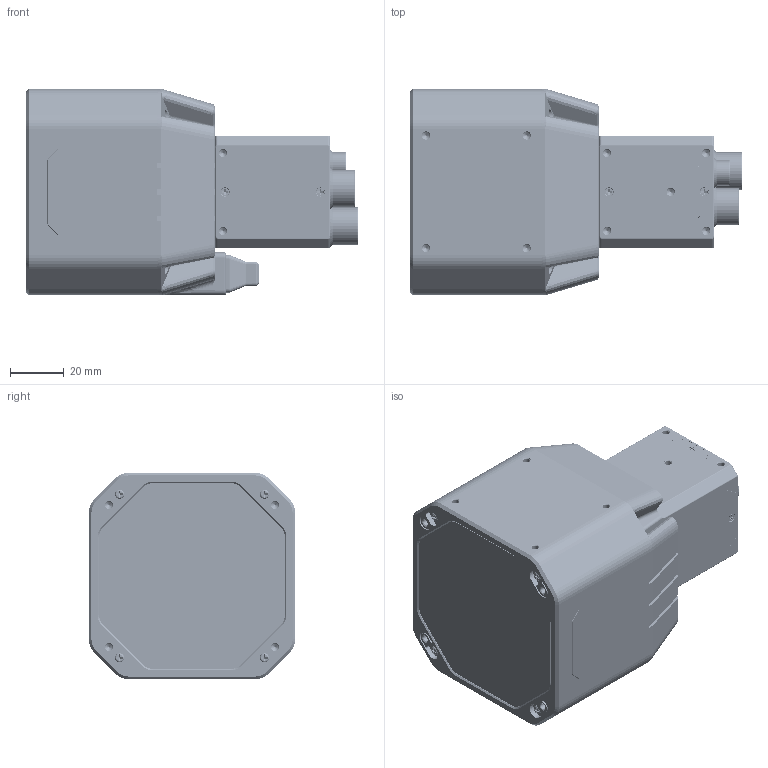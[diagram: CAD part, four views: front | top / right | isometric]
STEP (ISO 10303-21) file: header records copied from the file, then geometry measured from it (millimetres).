
FILE_DESCRIPTION((''),'2;1');
FILE_NAME('00-MV-CT050G-24GMC01-MAX_ASM','2025-11-28T17:14:15',('xujianping6'),(''),'CREO PARAMETRIC BY PTC INC, 2020044','CREO PARAMETRIC BY PTC INC, 2020044','');
FILE_SCHEMA(('CONFIG_CONTROL_DESIGN'));
Products named in the file (33): QIANGAI-NAA-MAX; LVGUANGPIAN; LGP_YABAN; QIANDUANZUJIAN-MAX_ASM; ZHONGKUANG-MAX; ZHONGKUANGZUJIAN-MAX_ASM; HOUGAI-MAX; PCB-MV-23517-REV10; 100600296; SGN-M12-NEW3-20241128; SGN-M8-NEWS5-20241205; MV-23517-REV10_ASM; MV-ZHUBAN-REV10_ASM; BANJINZHIJIA-FPC-ASM_ASM; PCB-MV-JIEKOUBAN-MAX-REV10; CNT-MAX-M12-20241220_ASM; ORING-7D5-1D5; MV-JIEKOUBAN-MAX-REV10_ASM; D-01-35-26-0837; SC-T1M2X4NL-B; HOUGAIZUJIAN-MAX_ASM; MIFENGDIZUO-NEW; MIFENGZHONGKUANG-NEW; MIFENGSHANGGAI-NEW; DE-20-000155_ASM; DB_GAIPIAN-MAX; SC-PM2X4_5-NI; SC-PM2X10-NI-NEW; SR-KAKOU; SR-M10-ASM_ASM; JINGTOUZHAO-MAX_ASM; DE-19-001087; 00-MV-CT050G-24GMC01-MAX_ASM
Assembly tree (58 placements, depth 5):
  00-MV-CT050G-24GMC01-MAX_ASM
    QIANDUANZUJIAN-MAX_ASM
      QIANGAI-NAA-MAX
      LVGUANGPIAN
      LGP_YABAN
    ZHONGKUANGZUJIAN-MAX_ASM
      ZHONGKUANG-MAX
    HOUGAIZUJIAN-MAX_ASM
      HOUGAI-MAX
      MV-ZHUBAN-REV10_ASM
        MV-23517-REV10_ASM
          PCB-MV-23517-REV10
          100600296
          SGN-M12-NEW3-20241128
          SGN-M8-NEWS5-20241205
      BANJINZHIJIA-FPC-ASM_ASM
      MV-JIEKOUBAN-MAX-REV10_ASM
        PCB-MV-JIEKOUBAN-MAX-REV10
        CNT-MAX-M12-20241220_ASM
        ORING-7D5-1D5
      D-01-35-26-0837
      SC-T1M2X4NL-B  x2
    JINGTOUZHAO-MAX_ASM
      MIFENGDIZUO-NEW
      MIFENGZHONGKUANG-NEW
      MIFENGSHANGGAI-NEW
      DE-20-000155_ASM
      DB_GAIPIAN-MAX
      SC-PM2X4_5-NI  x8
      SC-PM2X10-NI-NEW  x4
      SR-M10-ASM_ASM
        SR-KAKOU
    DE-19-001087  x16
Bounding box: 123.8 x 77 x 77 mm (x, y, z)
Volume: 127943.5 mm3; surface area: 102725.9 mm2
Topology: 47 solids, 168 shells, 5690 faces, 14843 edges, 9491 vertices
Faces by surface type: plane 2583, cylinder 2094, cone 612, torus 159, bspline 146, extrusion 74, sphere 22
Entity records: 156727 total; most frequent: CARTESIAN_POINT 44521, DIRECTION 23844, ORIENTED_EDGE 22992, EDGE_CURVE 11657, AXIS2_PLACEMENT_3D 8872, VERTEX_POINT 7612, VECTOR 6100, LINE 6026
